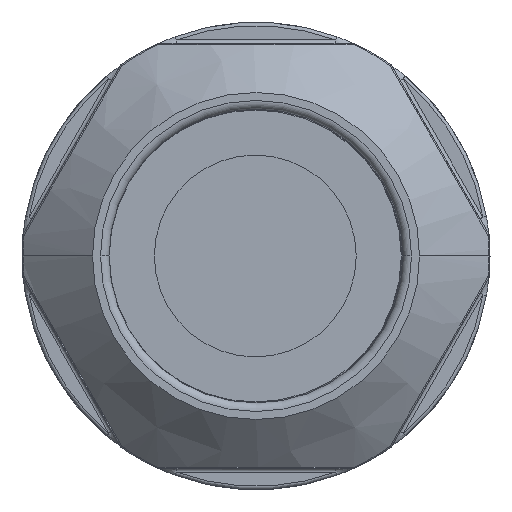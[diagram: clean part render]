
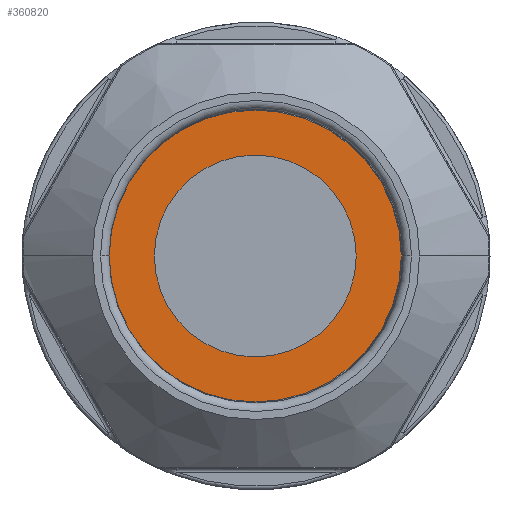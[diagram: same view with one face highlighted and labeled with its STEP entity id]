
A CAD part, left-side view. The second image highlights one B-rep face of the part: STEP entity #360820.
In plain terms, the highlighted planar face has unit normal (-1, 0, 0).
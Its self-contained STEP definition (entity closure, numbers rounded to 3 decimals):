
#360340=CARTESIAN_POINT('',(-194.627,280.367,0.))
;
#360350=VERTEX_POINT('',#360340);
#360430=CARTESIAN_POINT('',(-194.627,303.867,0.))
;
#360440=VERTEX_POINT('',#360430);
#360470=CARTESIAN_POINT('',(-194.627,292.117,0.))
;
#360480=DIRECTION('',(-1.,0.,0.));
#360490=DIRECTION('',(0.,1.,0.));
#360500=AXIS2_PLACEMENT_3D('',#360470,#360480,#360490);
#360510=CIRCLE('',#360500,11.75);
#360520=EDGE_CURVE('',#360350,#360440,#360510,.T.);
#360570=CARTESIAN_POINT('',(-194.627,306.492,0.))
;
#360580=DIRECTION('',(-1.,0.,0.));
#360590=DIRECTION('',(0.,-1.,-0.));
#360600=AXIS2_PLACEMENT_3D('',#360570,#360580,#360590);
#360610=PLANE('',#360600);
#360620=CARTESIAN_POINT('',(-194.627,292.117,0.))
;
#360630=DIRECTION('',(-1.,0.,0.));
#360640=DIRECTION('',(0.,1.,0.));
#360650=AXIS2_PLACEMENT_3D('',#360620,#360630,#360640);
#360660=CIRCLE('',#360650,17.);
#360670=CARTESIAN_POINT('',(-194.627,309.117,0.))
;
#360680=VERTEX_POINT('',#360670);
#360690=CARTESIAN_POINT('',(-194.627,275.117,0.))
;
#360700=VERTEX_POINT('',#360690);
#360710=EDGE_CURVE('',#360680,#360700,#360660,.T.);
#360720=ORIENTED_EDGE('',*,*,#360710,.T.);
#360730=EDGE_CURVE('',#360700,#360680,#360660,.T.);
#360740=ORIENTED_EDGE('',*,*,#360730,.T.);
#360750=EDGE_LOOP('',(#360740,#360720));
#360760=FACE_OUTER_BOUND('',#360750,.T.);
#360770=EDGE_CURVE('',#360440,#360350,#360510,.T.);
#360780=ORIENTED_EDGE('',*,*,#360770,.F.);
#360790=ORIENTED_EDGE('',*,*,#360520,.F.);
#360800=EDGE_LOOP('',(#360790,#360780));
#360810=FACE_BOUND('',#360800,.T.);
#360820=ADVANCED_FACE('',(#360760,#360810),#360610,.T.);
